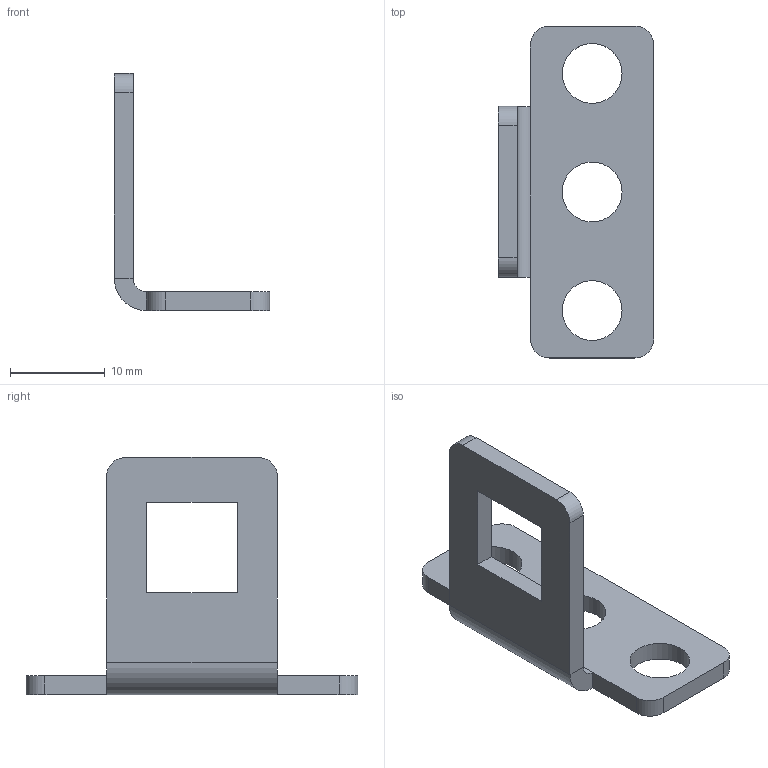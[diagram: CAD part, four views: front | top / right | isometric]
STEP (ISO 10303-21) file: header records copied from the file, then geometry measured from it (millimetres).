
FILE_DESCRIPTION(('STEP AP203'), '1');
FILE_NAME('Êîìïëåêò êðîíøòåéíîâ äëÿ óñòàíîâêè ïëàñòðîíîâ (4 øò.) 423358 ÊÝÀÇ', '', ('UNSPECIFIED'), ('UNSPECIFIED'), 'C3D Converter', 'C3D Toolkit', '');
FILE_SCHEMA(('CONFIG_CONTROL_DESIGN'));
Length unit declared in the file: millimetre
Bounding box: 16.4 x 35 x 25 mm (x, y, z)
Volume: 1445.5 mm3; surface area: 1923.4 mm2
Topology: 1 solids, 1 shells, 29 faces, 73 edges, 46 vertices
Faces by surface type: plane 18, cylinder 11
Full cylindrical faces by diameter (mm): 6.3 x3
Entity records: 906 total; most frequent: DIRECTION 152, CARTESIAN_POINT 146, ORIENTED_EDGE 140, EDGE_CURVE 70, AXIS2_PLACEMENT_3D 52, LINE 48, VECTOR 48, VERTEX_POINT 46
